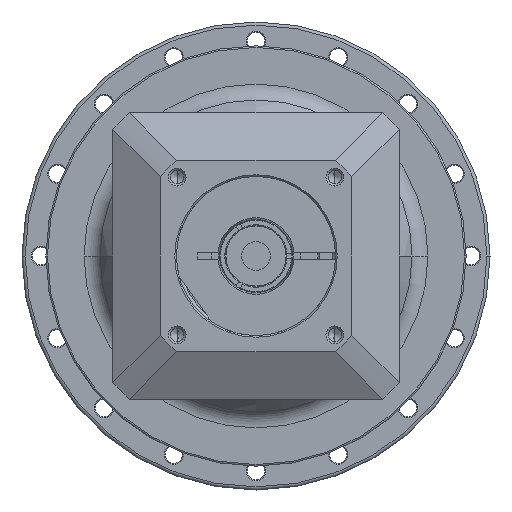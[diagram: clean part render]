
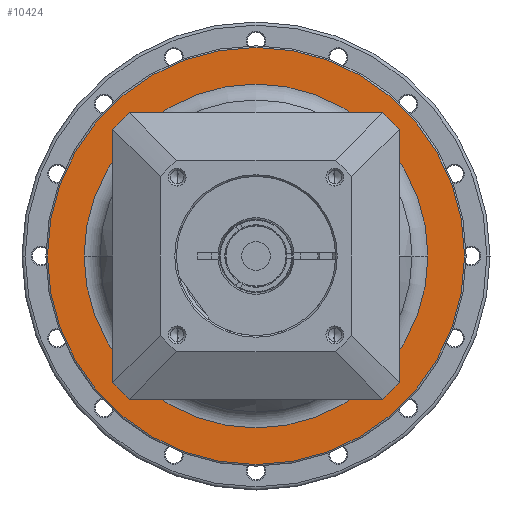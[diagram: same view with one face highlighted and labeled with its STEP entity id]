
A CAD part, left-side view. The second image highlights one B-rep face of the part: STEP entity #10424.
In plain terms, the highlighted planar face has unit normal (-1, 0, 0) as drawn and (1, 0, 0) by its records, which use the part's own axes.
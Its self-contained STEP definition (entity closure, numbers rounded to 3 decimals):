
#9407=CARTESIAN_POINT('',(-18.5,0.,0.));
#9408=DIRECTION('',(-1.,0.,0.));
#9409=DIRECTION('',(0.,-1.,0.));
#9410=AXIS2_PLACEMENT_3D('',#9407,#9408,#9409);
#9412=CARTESIAN_POINT('',(-18.5,0.,0.));
#9413=DIRECTION('',(-1.,0.,0.));
#9414=DIRECTION('',(0.,1.,0.));
#9415=AXIS2_PLACEMENT_3D('',#9412,#9413,#9414);
#9417=CARTESIAN_POINT('',(-18.5,0.,0.));
#9418=DIRECTION('',(1.,0.,0.));
#9419=DIRECTION('',(0.,1.,0.));
#9420=AXIS2_PLACEMENT_3D('',#9417,#9418,#9419);
#9427=CARTESIAN_POINT('',(-18.5,0.,0.));
#9428=DIRECTION('',(-1.,0.,0.));
#9429=DIRECTION('',(0.,1.,0.));
#9430=AXIS2_PLACEMENT_3D('',#9427,#9428,#9429);
#9709=CARTESIAN_POINT('',(-18.5,-65.5,0.));
#9710=CARTESIAN_POINT('',(-18.5,65.5,0.));
#9711=VERTEX_POINT('',#9709);
#9712=VERTEX_POINT('',#9710);
#9771=CARTESIAN_POINT('',(-18.5,54.,0.));
#9773=VERTEX_POINT('',#9771);
#9775=CARTESIAN_POINT('',(-18.5,-54.,0.));
#9777=VERTEX_POINT('',#9775);
#10409=CARTESIAN_POINT('',(-18.5,0.,0.));
#10410=DIRECTION('',(1.,0.,0.));
#10411=DIRECTION('',(0.,-1.,0.));
#10412=AXIS2_PLACEMENT_3D('',#10409,#10410,#10411);
#10413=PLANE('',#10412);
#10414=ORIENTED_EDGE('',*,*,#10365,.T.);
#10415=ORIENTED_EDGE('',*,*,#10350,.T.);
#10416=EDGE_LOOP('',(#10414,#10415));
#10417=FACE_OUTER_BOUND('',#10416,.F.);
#10419=ORIENTED_EDGE('',*,*,#10418,.T.);
#10421=ORIENTED_EDGE('',*,*,#10420,.F.);
#10422=EDGE_LOOP('',(#10419,#10421));
#10423=FACE_BOUND('',#10422,.F.);
#10424=ADVANCED_FACE('',(#10417,#10423),#10413,.T.);
#9411=CIRCLE('',#9410,65.5);
#9416=CIRCLE('',#9415,65.5);
#9421=CIRCLE('',#9420,54.);
#9431=CIRCLE('',#9430,54.);
#10350=EDGE_CURVE('',#9712,#9711,#9416,.T.);
#10365=EDGE_CURVE('',#9711,#9712,#9411,.T.);
#10418=EDGE_CURVE('',#9773,#9777,#9421,.T.);
#10420=EDGE_CURVE('',#9773,#9777,#9431,.T.);
